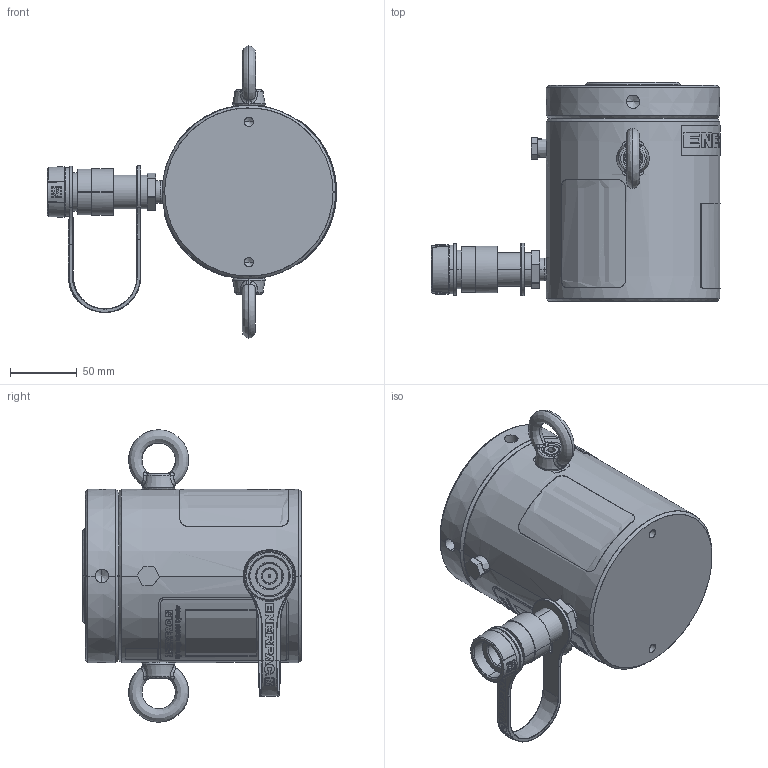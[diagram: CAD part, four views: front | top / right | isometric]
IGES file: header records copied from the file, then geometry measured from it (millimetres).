
Start section:  PTC IGES file: hcl502.igs
Global section: file name: hcl502.igs; native system: Creo Parametric by PTC Inc.; preprocessor: 2015290; author: Akhilesh.Subrahmanya; organization: Unknown; date: 20170621.153759; units: millimetre
Bounding box: 216.62 x 164 x 218.94 mm (x, y, z)
Surface area: 230994.1 mm2 (no closed solid volume)
Topology: 0 solids, 0 shells, 883 faces, 7079 edges, 7060 vertices
Faces by surface type: revolution 436, bspline 423, extrusion 24
